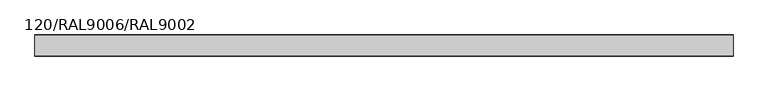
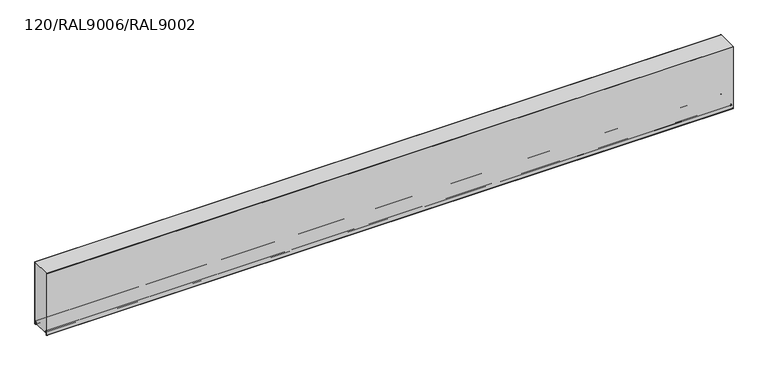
"""IFC4 building model written with IfcOpenShell, lengths in millimetres: plate geometry, TR_C_H_FTV_Panel_cut_GROOVE : 120/RAL9006/RAL9002."""

from ifc_helpers import new_model, si_unit, point, frame, frame_2d, origin, place, context, project, spatial, polyline, circle_curve, trimmed, segment, composite_curve, outline, extrude, source, transform, mapped, element, save


def plate_120_ral9006_ral9002_75840fce(model_context):
    return source(origin(), model_context, "Body", "SweptSolid", [
        extrude(outline(composite_curve([segment(polyline([(-0.8, 14.4000012), (-9.45, 14.4000012)]), True, "CONTINUOUS"), segment(trimmed(circle_curve(frame_2d((-9.45, 10.1500012)), 4.25), [point((-9.45, 14.4000012))], [point((-13.635433, 10.8880059))], True, "CARTESIAN"), True, "CONTINUOUS"), segment(polyline([(-13.635433, 10.8880059), (-14.7022582, 4.837739)]), True, "CONTINUOUS"), segment(trimmed(circle_curve(frame_2d((-17.6074411, 5.3500012)), 2.95), [point((-14.7022582, 4.837739))], [point((-17.6074411, 2.4000012))], False, "CARTESIAN"), True, "CONTINUOUS"), segment(polyline([(-17.6074411, 2.4000012), (-23.7, 2.4000012), (-23.7, 1.2e-06), (-96.3, 1.2e-06), (-96.3, 2.4000012), (-102.3925589, 2.4000012)]), True, "CONTINUOUS"), segment(trimmed(circle_curve(frame_2d((-102.3925589, 5.3500012)), 2.95), [point((-102.3925589, 2.4000012))], [point((-105.2977418, 4.837739))], False, "CARTESIAN"), True, "CONTINUOUS"), segment(polyline([(-105.2977418, 4.837739), (-106.364567, 10.8880059)]), True, "CONTINUOUS"), segment(trimmed(circle_curve(frame_2d((-110.55, 10.1500012)), 4.25), [point((-106.364567, 10.8880059))], [point((-110.55, 14.4000012))], True, "CARTESIAN"), True, "CONTINUOUS"), segment(polyline([(-110.55, 14.4000012), (-119.2, 14.4000012), (-119.2, 370.0), (-0.8, 370.0), (-0.8, 14.4000012)]), True, "CONTINUOUS")], self_intersect=False)), frame((-1980.0, 0.0, 0.0), z_axis=(1.0, 0.0, 0.0), x_axis=(0.0, 1.0, 0.0)), (0.0, 0.0, 1.0), 3960.0),
        extrude(outline(composite_curve([segment(polyline([(-21.0, 2.4000012), (-17.6074411, 2.4000012)]), True, "CONTINUOUS"), segment(trimmed(circle_curve(frame_2d((-17.6074411, 5.3500012)), 2.95), [point((-17.6074411, 2.4000012))], [point((-14.7022582, 4.837739))], True, "CARTESIAN"), True, "CONTINUOUS"), segment(polyline([(-14.7022582, 4.837739), (-13.635433, 10.8880059)]), True, "CONTINUOUS"), segment(trimmed(circle_curve(frame_2d((-9.45, 10.1500012)), 4.25), [point((-13.635433, 10.8880059))], [point((-5.2, 10.1500012))], False, "CARTESIAN"), True, "CONTINUOUS"), segment(polyline([(-5.2, 10.1500012), (-5.2, -7.4499988)]), True, "CONTINUOUS"), segment(trimmed(circle_curve(frame_2d((-4.05, -7.4499988)), 1.15), [point((-5.2, -7.4499988))], [point((-3.2368272, -8.2631716))], True, "CARTESIAN"), True, "CONTINUOUS"), segment(polyline([(-3.2368272, -8.2631716), (-1.3711418, -6.3974862)]), True, "CONTINUOUS"), segment(trimmed(circle_curve(frame_2d((-2.75, -5.018628)), 1.95), [point((-1.3711418, -6.3974862))], [point((-0.8, -5.018628))], True, "CARTESIAN"), True, "CONTINUOUS"), segment(polyline([(-0.8, -5.018628), (-0.8, 370.0), (0.0, 370.0), (0.0, -5.018628)]), True, "CONTINUOUS"), segment(trimmed(circle_curve(frame_2d((-2.75, -5.018628)), 2.75), [point((0.0, -5.018628))], [point((-0.8054564, -6.9631716))], False, "CARTESIAN"), True, "CONTINUOUS"), segment(polyline([(-0.8054564, -6.9631716), (-2.6711418, -8.8288571)]), True, "CONTINUOUS"), segment(trimmed(circle_curve(frame_2d((-4.05, -7.4499988)), 1.95), [point((-2.6711418, -8.8288571))], [point((-6.0, -7.4499988))], False, "CARTESIAN"), True, "CONTINUOUS"), segment(polyline([(-6.0, -7.4499988), (-6.0, 10.1500012)]), True, "CONTINUOUS"), segment(trimmed(circle_curve(frame_2d((-9.45, 10.1500012)), 3.45), [point((-6.0, 10.1500012))], [point((-12.8475867, 10.7490874))], True, "CARTESIAN"), True, "CONTINUOUS"), segment(polyline([(-12.8475867, 10.7490874), (-13.914412, 4.6988205)]), True, "CONTINUOUS"), segment(trimmed(circle_curve(frame_2d((-17.6074411, 5.3500012)), 3.75), [point((-13.914412, 4.6988205))], [point((-17.6074411, 1.6000012))], False, "CARTESIAN"), True, "CONTINUOUS"), segment(polyline([(-17.6074411, 1.6000012), (-21.0, 1.6000012), (-21.0, 2.4000012)]), True, "CONTINUOUS")], self_intersect=False)), frame((-1980.0, 0.0, 0.0), z_axis=(1.0, 0.0, 0.0), x_axis=(0.0, 1.0, 0.0)), (0.0, 0.0, 1.0), 3960.0),
        extrude(outline(composite_curve([segment(trimmed(circle_curve(frame_2d((-117.25, -5.018628)), 1.95), [point((-119.2, -5.018628))], [point((-118.6288582, -6.3974862))], True, "CARTESIAN"), True, "CONTINUOUS"), segment(polyline([(-118.6288582, -6.3974862), (-116.7631728, -8.2631716)]), True, "CONTINUOUS"), segment(trimmed(circle_curve(frame_2d((-115.95, -7.4499988)), 1.15), [point((-116.7631728, -8.2631716))], [point((-114.8, -7.4499988))], True, "CARTESIAN"), True, "CONTINUOUS"), segment(polyline([(-114.8, -7.4499988), (-114.8, 10.1500012)]), True, "CONTINUOUS"), segment(trimmed(circle_curve(frame_2d((-110.55, 10.1500012)), 4.25), [point((-114.8, 10.1500012))], [point((-106.364567, 10.8880059))], False, "CARTESIAN"), True, "CONTINUOUS"), segment(polyline([(-106.364567, 10.8880059), (-105.2977418, 4.837739)]), True, "CONTINUOUS"), segment(trimmed(circle_curve(frame_2d((-102.3925589, 5.3500012)), 2.95), [point((-105.2977418, 4.837739))], [point((-102.3925589, 2.4000012))], True, "CARTESIAN"), True, "CONTINUOUS"), segment(polyline([(-102.3925589, 2.4000012), (-99.0, 2.4000012), (-99.0, 1.6000012), (-102.3925589, 1.6000012)]), True, "CONTINUOUS"), segment(trimmed(circle_curve(frame_2d((-102.3925589, 5.3500012)), 3.75), [point((-102.3925589, 1.6000012))], [point((-106.085588, 4.6988205))], False, "CARTESIAN"), True, "CONTINUOUS"), segment(polyline([(-106.085588, 4.6988205), (-107.1524133, 10.7490874)]), True, "CONTINUOUS"), segment(trimmed(circle_curve(frame_2d((-110.55, 10.1500012)), 3.45), [point((-107.1524133, 10.7490874))], [point((-114.0, 10.1500012))], True, "CARTESIAN"), True, "CONTINUOUS"), segment(polyline([(-114.0, 10.1500012), (-114.0, -7.4499988)]), True, "CONTINUOUS"), segment(trimmed(circle_curve(frame_2d((-115.95, -7.4499988)), 1.95), [point((-114.0, -7.4499988))], [point((-117.3288582, -8.8288571))], False, "CARTESIAN"), True, "CONTINUOUS"), segment(polyline([(-117.3288582, -8.8288571), (-119.1945436, -6.9631716)]), True, "CONTINUOUS"), segment(trimmed(circle_curve(frame_2d((-117.25, -5.018628)), 2.75), [point((-119.1945436, -6.9631716))], [point((-120.0, -5.018628))], False, "CARTESIAN"), True, "CONTINUOUS"), segment(polyline([(-120.0, -5.018628), (-120.0, 370.0), (-119.2, 370.0), (-119.2, -5.018628)]), True, "CONTINUOUS")], self_intersect=False)), frame((-1980.0, 0.0, 0.0), z_axis=(1.0, 0.0, 0.0), x_axis=(0.0, 1.0, 0.0)), (0.0, 0.0, 1.0), 3960.0),
    ])


if __name__ == "__main__":
    model = new_model("IFC4")
    model_context = context("Model", 3, world=origin())
    ifc_project = project(units=[si_unit("LENGTHUNIT", "METRE", prefix="MILLI")], contexts=[model_context])
    site = spatial("IfcSite", under=ifc_project)
    building = spatial("IfcBuilding", under=site)
    placement = place(None, origin())
    plate_120_ral9006_ral9002_shape = plate_120_ral9006_ral9002_75840fce(model_context)
    element("IfcPlate", 1, ObjectType="TR_C_H_FTV_Panel_cut_GROOVE : 120/RAL9006/RAL9002", at=placement, inside=building, context=model_context, shape_type="MappedRepresentation", body=[
        mapped(plate_120_ral9006_ral9002_shape, transform((0.0, 0.0, 0.0), x_axis=(1.0, 0.0, 0.0), y_axis=(0.0, 1.0, 0.0), z_axis=(0.0, 0.0, 1.0))),
    ])
    save(model, "model.ifc")
